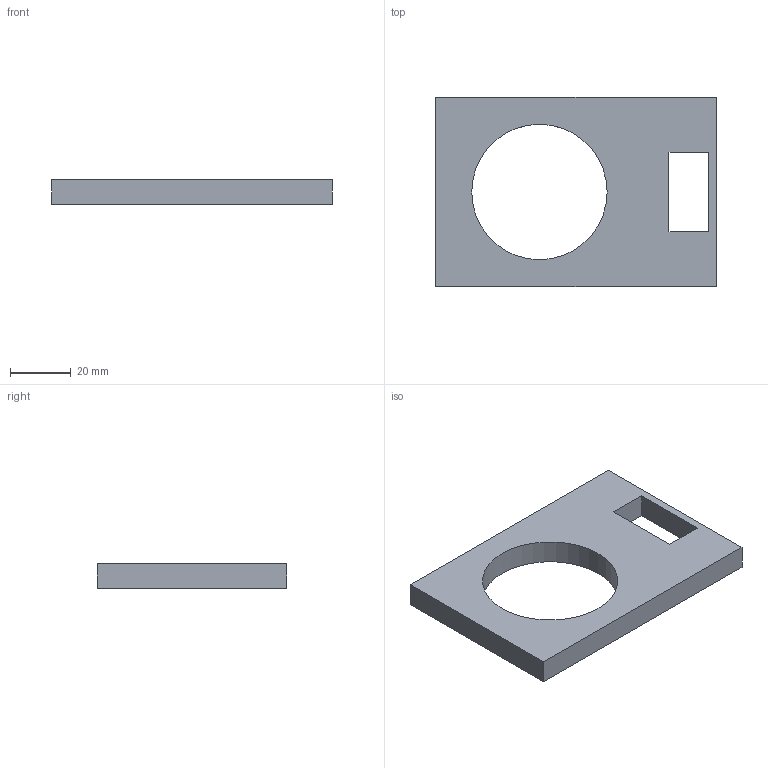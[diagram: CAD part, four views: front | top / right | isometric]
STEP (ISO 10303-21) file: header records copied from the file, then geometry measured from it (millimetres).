
FILE_DESCRIPTION(('Open CASCADE Model'),'2;1');
FILE_NAME('Open CASCADE Shape Model','2026-10-04T02:31:38',('Author'),( 'Open CASCADE'),'Open CASCADE STEP processor 8.0','Open CASCADE 8.0' ,'Unknown');
FILE_SCHEMA(('AUTOMOTIVE_DESIGN { 1 0 10303 214 1 1 1 1 }'));
Length unit declared in the file: millimetre
Products named in the file (1): Open CASCADE STEP translator 8.0 144
Bounding box: 92 x 62 x 8 mm (x, y, z)
Volume: 30541.6 mm3; surface area: 11839.3 mm2
Topology: 1 solids, 1 shells, 11 faces, 27 edges, 18 vertices
Faces by surface type: plane 10, cylinder 1
Full cylindrical faces by diameter (mm): 44.4 x1
Entity records: 692 total; most frequent: CARTESIAN_POINT 111, DIRECTION 107, LINE 77, VECTOR 77, ORIENTED_EDGE 54, PCURVE 54, DEFINITIONAL_REPRESENTATION 54, EDGE_CURVE 27
